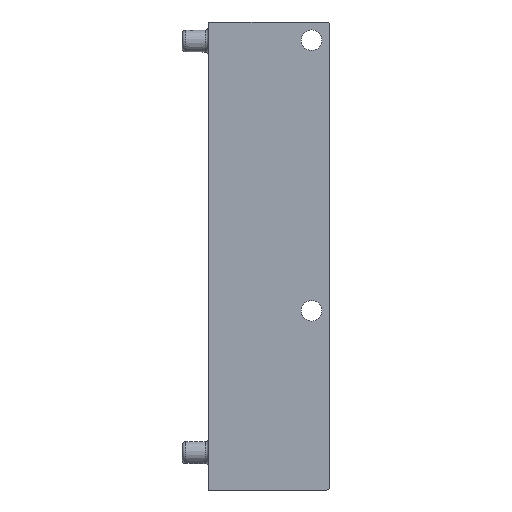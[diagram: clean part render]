
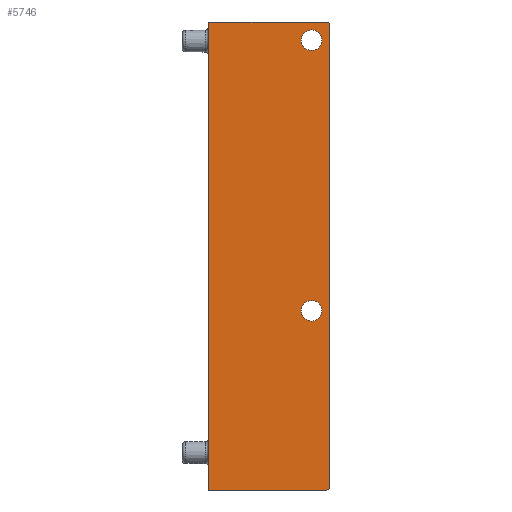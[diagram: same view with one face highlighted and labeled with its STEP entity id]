
A CAD part, front view. The second image highlights one B-rep face of the part: STEP entity #5746.
In plain terms, the highlighted planar face has unit normal (0, -1, 0).
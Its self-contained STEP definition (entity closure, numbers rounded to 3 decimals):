
#1584 = CARTESIAN_POINT ( 'NONE',  ( 7.75, 0., 70.5 ) ) ;
#2550 = ORIENTED_EDGE ( 'NONE', *, *, #44456, .T. ) ;
#3988 = CIRCLE ( 'NONE', #44765, 1. ) ;
#4235 = CIRCLE ( 'NONE', #80897, 1. ) ;
#5122 = CARTESIAN_POINT ( 'NONE',  ( -17.75, 0., 70.5 ) ) ;
#5746 = ADVANCED_FACE ( 'NONE', ( #99737, #11562, #77500 ), #26298, .F. ) ;
#5866 = VERTEX_POINT ( 'NONE', #96347 ) ;
#6190 = VERTEX_POINT ( 'NONE', #100266 ) ;
#6493 = VECTOR ( 'NONE', #16994, 1000. ) ;
#7218 = DIRECTION ( 'NONE',  ( 0., 1., 0. ) ) ;
#9918 = DIRECTION ( 'NONE',  ( 1., 0., 0. ) ) ;
#10162 = DIRECTION ( 'NONE',  ( 0., -1., 0. ) ) ;
#11088 = VERTEX_POINT ( 'NONE', #17344 ) ;
#11562 = FACE_BOUND ( 'NONE', #12372, .T. ) ;
#11720 = CARTESIAN_POINT ( 'NONE',  ( 17.75, 0., -70.5 ) ) ;
#12372 = EDGE_LOOP ( 'NONE', ( #47370 ) ) ;
#14066 = ORIENTED_EDGE ( 'NONE', *, *, #54811, .T. ) ;
#14644 = CARTESIAN_POINT ( 'NONE',  ( 7.75, 0., 70.5 ) ) ;
#16994 = DIRECTION ( 'NONE',  ( 0., 0., -1. ) ) ;
#17344 = CARTESIAN_POINT ( 'NONE',  ( -17.75, 0., -70.5 ) ) ;
#21326 = CARTESIAN_POINT ( 'NONE',  ( 16.343, 0., -16.5 ) ) ;
#21825 = ORIENTED_EDGE ( 'NONE', *, *, #64449, .T. ) ;
#23194 = ORIENTED_EDGE ( 'NONE', *, *, #88152, .F. ) ;
#26298 = PLANE ( 'NONE',  #85288 ) ;
#28566 = LINE ( 'NONE', #49959, #6493 ) ;
#29271 = CIRCLE ( 'NONE', #91141, 3.093 ) ;
#30457 = CARTESIAN_POINT ( 'NONE',  ( 18.75, 0., 70.5 ) ) ;
#33568 = CARTESIAN_POINT ( 'NONE',  ( 18.75, 0., -69.5 ) ) ;
#34229 = DIRECTION ( 'NONE',  ( 0., 1., 0. ) ) ;
#37315 = LINE ( 'NONE', #30457, #56644 ) ;
#39191 = EDGE_LOOP ( 'NONE', ( #23194, #21825, #90252, #45095, #2550, #70321 ) ) ;
#39640 = VERTEX_POINT ( 'NONE', #55579 ) ;
#39682 = LINE ( 'NONE', #96518, #80983 ) ;
#41075 = LINE ( 'NONE', #14644, #85005 ) ;
#42358 = DIRECTION ( 'NONE',  ( 0., -1., 0. ) ) ;
#44456 = EDGE_CURVE ( 'NONE', #5866, #74885, #41075, .T. ) ;
#44765 = AXIS2_PLACEMENT_3D ( 'NONE', #91882, #42358, #100288 ) ;
#45095 = ORIENTED_EDGE ( 'NONE', *, *, #85941, .T. ) ;
#47370 = ORIENTED_EDGE ( 'NONE', *, *, #71057, .T. ) ;
#49959 = CARTESIAN_POINT ( 'NONE',  ( -17.75, 0., 70.5 ) ) ;
#54811 = EDGE_CURVE ( 'NONE', #107186, #107186, #67059, .T. ) ;
#55059 = VERTEX_POINT ( 'NONE', #11720 ) ;
#55579 = CARTESIAN_POINT ( 'NONE',  ( 16.343, 0., 65. ) ) ;
#56644 = VECTOR ( 'NONE', #79842, 1000. ) ;
#56769 = CARTESIAN_POINT ( 'NONE',  ( 13.25, 0., 65. ) ) ;
#59428 = DIRECTION ( 'NONE',  ( 0., 1., 0. ) ) ;
#59664 = CARTESIAN_POINT ( 'NONE',  ( 17.75, 0., -69.5 ) ) ;
#64449 = EDGE_CURVE ( 'NONE', #55059, #87773, #4235, .T. ) ;
#64789 = EDGE_CURVE ( 'NONE', #87773, #6190, #37315, .T. ) ;
#65076 = DIRECTION ( 'NONE',  ( 1., 0., 0. ) ) ;
#67059 = CIRCLE ( 'NONE', #92839, 3.093 ) ;
#67986 = DIRECTION ( 'NONE',  ( 1., 0., 0. ) ) ;
#70321 = ORIENTED_EDGE ( 'NONE', *, *, #72924, .T. ) ;
#71057 = EDGE_CURVE ( 'NONE', #39640, #39640, #29271, .T. ) ;
#72924 = EDGE_CURVE ( 'NONE', #74885, #11088, #28566, .T. ) ;
#74885 = VERTEX_POINT ( 'NONE', #5122 ) ;
#77500 = FACE_OUTER_BOUND ( 'NONE', #39191, .T. ) ;
#79842 = DIRECTION ( 'NONE',  ( 0., 0., 1. ) ) ;
#80406 = DIRECTION ( 'NONE',  ( -1., 0., 0. ) ) ;
#80897 = AXIS2_PLACEMENT_3D ( 'NONE', #59664, #10162, #67986 ) ;
#80983 = VECTOR ( 'NONE', #104914, 1000. ) ;
#83750 = CARTESIAN_POINT ( 'NONE',  ( 13.25, 0., -16.5 ) ) ;
#85005 = VECTOR ( 'NONE', #80406, 1000. ) ;
#85288 = AXIS2_PLACEMENT_3D ( 'NONE', #1584, #59428, #9918 ) ;
#85941 = EDGE_CURVE ( 'NONE', #6190, #5866, #3988, .T. ) ;
#87773 = VERTEX_POINT ( 'NONE', #33568 ) ;
#88152 = EDGE_CURVE ( 'NONE', #55059, #11088, #39682, .T. ) ;
#90252 = ORIENTED_EDGE ( 'NONE', *, *, #64789, .T. ) ;
#91141 = AXIS2_PLACEMENT_3D ( 'NONE', #56769, #7218, #65076 ) ;
#91882 = CARTESIAN_POINT ( 'NONE',  ( 17.75, 0., 69.5 ) ) ;
#92146 = DIRECTION ( 'NONE',  ( 1., 0., 0. ) ) ;
#92839 = AXIS2_PLACEMENT_3D ( 'NONE', #83750, #34229, #92146 ) ;
#96339 = EDGE_LOOP ( 'NONE', ( #14066 ) ) ;
#96347 = CARTESIAN_POINT ( 'NONE',  ( 17.75, 0., 70.5 ) ) ;
#96518 = CARTESIAN_POINT ( 'NONE',  ( 7.75, 0., -70.5 ) ) ;
#99737 = FACE_BOUND ( 'NONE', #96339, .T. ) ;
#100266 = CARTESIAN_POINT ( 'NONE',  ( 18.75, 0., 69.5 ) ) ;
#100288 = DIRECTION ( 'NONE',  ( 1., 0., 0. ) ) ;
#104914 = DIRECTION ( 'NONE',  ( -1., 0., 0. ) ) ;
#107186 = VERTEX_POINT ( 'NONE', #21326 ) ;
